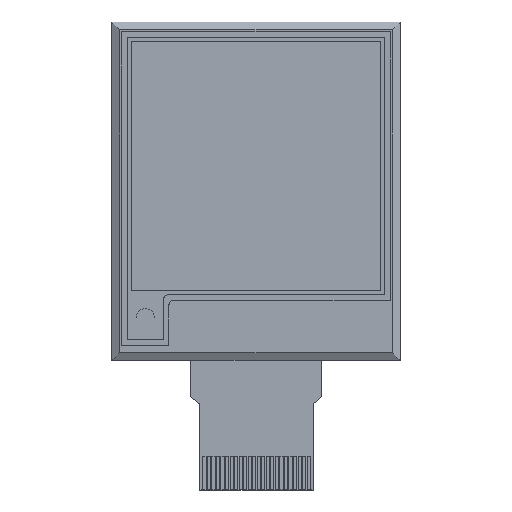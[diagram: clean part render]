
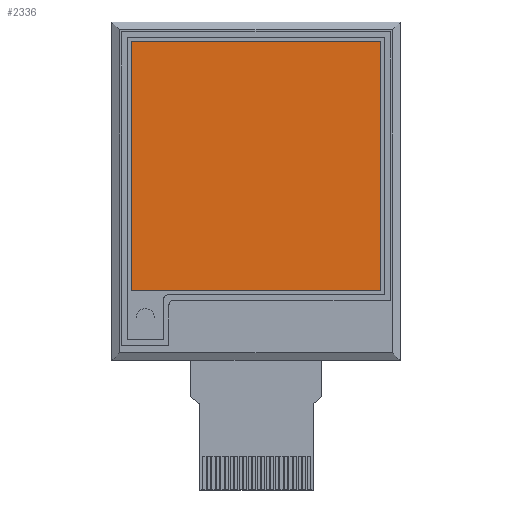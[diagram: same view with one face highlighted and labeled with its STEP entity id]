
A CAD part, top view. The second image highlights one B-rep face of the part: STEP entity #2336.
In plain terms, the highlighted planar face has unit normal (0, 0, 1).
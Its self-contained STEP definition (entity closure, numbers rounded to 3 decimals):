
#170 = EDGE_CURVE ( 'NONE', #3308, #3909, #4484, .T. ) ;
#220 = EDGE_LOOP ( 'NONE', ( #5450, #4108, #2701, #1296 ) ) ;
#783 = VECTOR ( 'NONE', #3769, 1000. ) ;
#834 = FACE_OUTER_BOUND ( 'NONE', #220, .T. ) ;
#928 = PLANE ( 'NONE',  #3033 ) ;
#1020 = LINE ( 'NONE', #2330, #4585 ) ;
#1059 = CARTESIAN_POINT ( 'NONE',  ( 0., 0., 0.98 ) ) ;
#1296 = ORIENTED_EDGE ( 'NONE', *, *, #170, .F. ) ;
#1688 = CARTESIAN_POINT ( 'NONE',  ( 0., 16.52, 0.98 ) ) ;
#1717 = LINE ( 'NONE', #1775, #2664 ) ;
#1775 = CARTESIAN_POINT ( 'NONE',  ( -13.75, 0., 0.98 ) ) ;
#1957 = CARTESIAN_POINT ( 'NONE',  ( 0., -10.99, 0.98 ) ) ;
#2155 = VECTOR ( 'NONE', #3122, 1000. ) ;
#2330 = CARTESIAN_POINT ( 'NONE',  ( 13.76, 0., 0.98 ) ) ;
#2336 = ADVANCED_FACE ( 'NONE', ( #834 ), #928, .T. ) ;
#2383 = DIRECTION ( 'NONE',  ( 0., -1., 0. ) ) ;
#2568 = CARTESIAN_POINT ( 'NONE',  ( -13.75, -10.99, 0.98 ) ) ;
#2636 = EDGE_CURVE ( 'NONE', #3760, #3308, #1717, .T. ) ;
#2664 = VECTOR ( 'NONE', #4006, 1000. ) ;
#2669 = VERTEX_POINT ( 'NONE', #2898 ) ;
#2701 = ORIENTED_EDGE ( 'NONE', *, *, #2932, .F. ) ;
#2898 = CARTESIAN_POINT ( 'NONE',  ( 13.76, -10.99, 0.98 ) ) ;
#2932 = EDGE_CURVE ( 'NONE', #3909, #2669, #1020, .T. ) ;
#3033 = AXIS2_PLACEMENT_3D ( 'NONE', #1059, #3780, #4197 ) ;
#3122 = DIRECTION ( 'NONE',  ( 1., 0., 0. ) ) ;
#3308 = VERTEX_POINT ( 'NONE', #3310 ) ;
#3310 = CARTESIAN_POINT ( 'NONE',  ( -13.75, 16.52, 0.98 ) ) ;
#3760 = VERTEX_POINT ( 'NONE', #2568 ) ;
#3769 = DIRECTION ( 'NONE',  ( -1., 0., 0. ) ) ;
#3780 = DIRECTION ( 'NONE',  ( 0., 0., 1. ) ) ;
#3909 = VERTEX_POINT ( 'NONE', #5082 ) ;
#4006 = DIRECTION ( 'NONE',  ( 0., 1., 0. ) ) ;
#4108 = ORIENTED_EDGE ( 'NONE', *, *, #4877, .F. ) ;
#4153 = LINE ( 'NONE', #1957, #783 ) ;
#4197 = DIRECTION ( 'NONE',  ( 1., 0., 0. ) ) ;
#4484 = LINE ( 'NONE', #1688, #2155 ) ;
#4585 = VECTOR ( 'NONE', #2383, 1000. ) ;
#4877 = EDGE_CURVE ( 'NONE', #2669, #3760, #4153, .T. ) ;
#5082 = CARTESIAN_POINT ( 'NONE',  ( 13.76, 16.52, 0.98 ) ) ;
#5450 = ORIENTED_EDGE ( 'NONE', *, *, #2636, .F. ) ;
